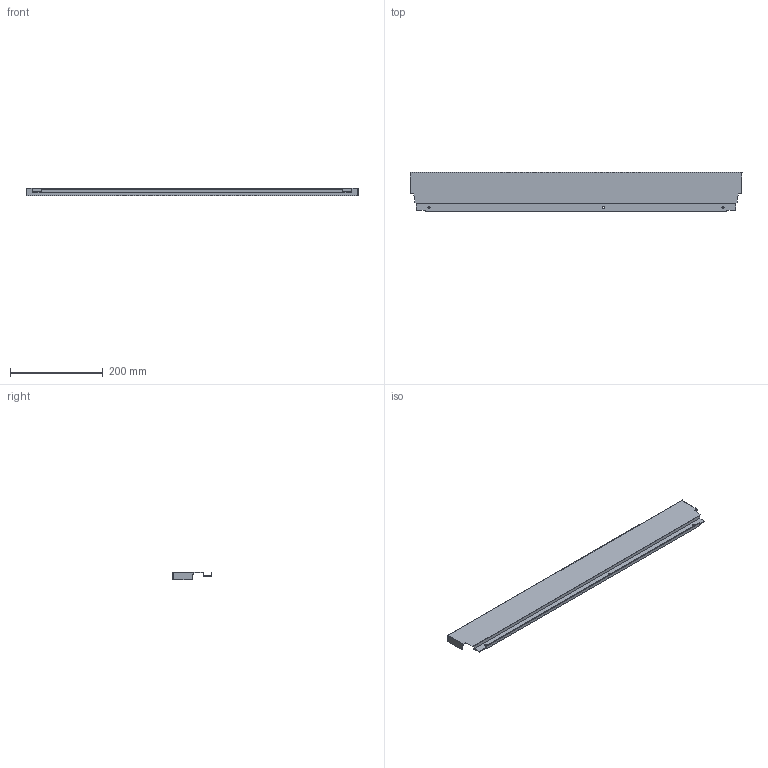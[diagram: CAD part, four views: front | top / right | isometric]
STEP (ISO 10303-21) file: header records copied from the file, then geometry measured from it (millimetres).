
FILE_DESCRIPTION (( 'STEP AP214' ), '1' );
FILE_NAME ('_DWD_XP Stahlrückwand_H86_KAB800_S17.step', '2010-07-08T12:10:12', ( 'grass' ), ( '' ), 'SwSTEP 2.0', 'SolidWorks 2010', '' );
FILE_SCHEMA (( 'AUTOMOTIVE_DESIGN' ));
Length unit declared in the file: millimetre
Products named in the file (1): _DWD_XP Stahlrückwand_H86_KAB800_S17
Bounding box: 717 x 85.79 x 16 mm (x, y, z)
Volume: 76711.2 mm3; surface area: 166701 mm2
Topology: 1 solids, 1 shells, 50 faces, 144 edges, 96 vertices
Faces by surface type: plane 44, cylinder 6
Entity records: 1666 total; most frequent: CARTESIAN_POINT 291, ORIENTED_EDGE 288, DIRECTION 258, EDGE_CURVE 144, LINE 132, VECTOR 132, VERTEX_POINT 96, AXIS2_PLACEMENT_3D 63
